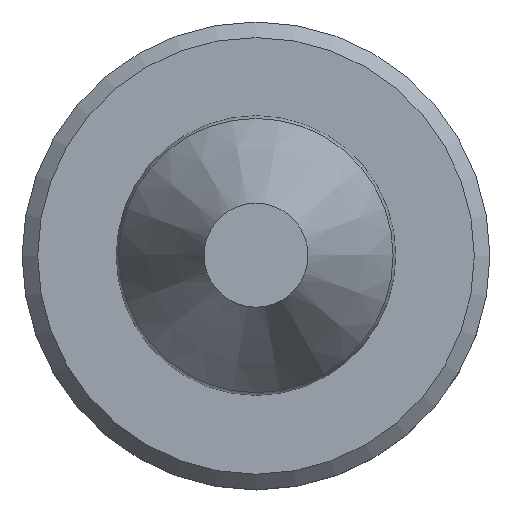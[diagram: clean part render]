
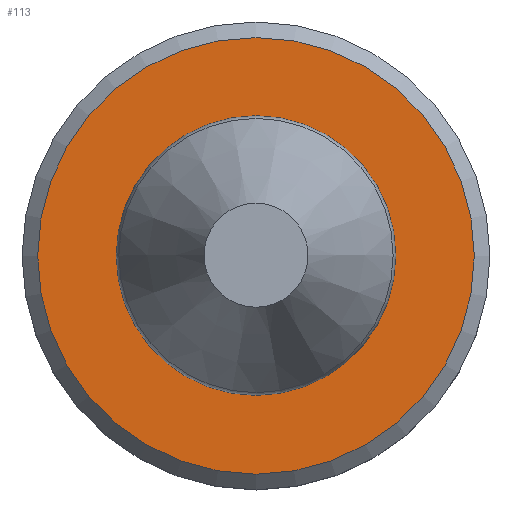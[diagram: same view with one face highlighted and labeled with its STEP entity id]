
A CAD part, top view. The second image highlights one B-rep face of the part: STEP entity #113.
In plain terms, the highlighted planar face has unit normal (0, 0, 1).
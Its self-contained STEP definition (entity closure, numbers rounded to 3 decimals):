
#29=ORIENTED_EDGE('',*,*,#47,.T.);
#30=ORIENTED_EDGE('',*,*,#48,.T.);
#47=EDGE_CURVE('',#56,#56,#65,.T.);
#48=EDGE_CURVE('',#57,#57,#66,.T.);
#56=VERTEX_POINT('',#204);
#57=VERTEX_POINT('',#206);
#65=CIRCLE('',#140,8.4);
#66=CIRCLE('',#141,4.25);
#74=EDGE_LOOP('',(#29));
#75=EDGE_LOOP('',(#30));
#92=FACE_BOUND('',#74,.T.);
#93=FACE_BOUND('',#75,.T.);
#108=PLANE('',#139);
#113=ADVANCED_FACE('',(#92,#93),#108,.T.);
#139=AXIS2_PLACEMENT_3D('',#202,#165,#166);
#140=AXIS2_PLACEMENT_3D('',#203,#167,#168);
#141=AXIS2_PLACEMENT_3D('',#205,#169,#170);
#165=DIRECTION('',(0.,0.,1.));
#166=DIRECTION('',(1.,0.,0.));
#167=DIRECTION('',(0.,0.,1.));
#168=DIRECTION('',(1.,0.,0.));
#169=DIRECTION('',(0.,0.,-1.));
#170=DIRECTION('',(-1.,0.,0.));
#202=CARTESIAN_POINT('',(-9.,0.,5.5));
#203=CARTESIAN_POINT('',(0.,0.,5.5));
#204=CARTESIAN_POINT('',(8.4,0.,5.5));
#205=CARTESIAN_POINT('',(0.,0.,5.5));
#206=CARTESIAN_POINT('',(-4.25,0.,5.5));
